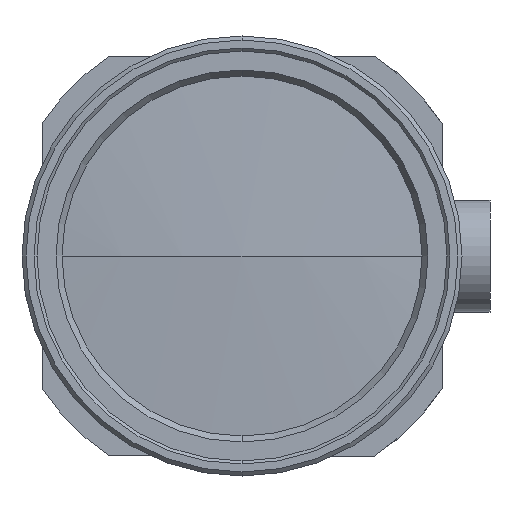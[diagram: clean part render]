
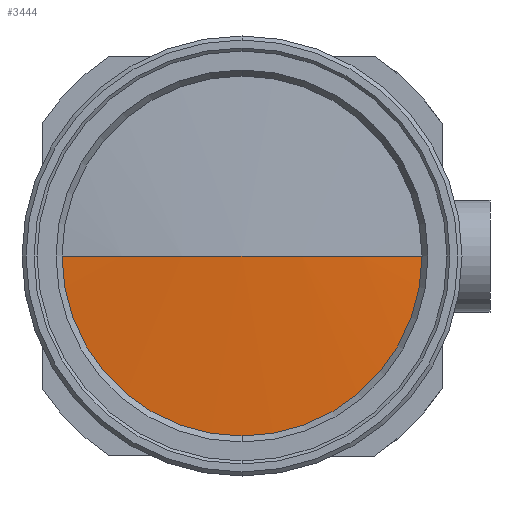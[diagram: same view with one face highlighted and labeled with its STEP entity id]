
A CAD part, left-side view. The second image highlights one B-rep face of the part: STEP entity #3444.
In plain terms, the highlighted spherical face has radius 232.5 mm.
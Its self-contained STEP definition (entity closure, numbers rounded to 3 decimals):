
#75 = AXIS2_PLACEMENT_3D ( 'NONE', #2205, #3190, #2234 ) ;
#82 = DIRECTION ( 'NONE',  ( 0., 1., 0. ) ) ;
#104 = ORIENTED_EDGE ( 'NONE', *, *, #3511, .T. ) ;
#147 = SPHERICAL_SURFACE ( 'NONE', #3337, 232.5 ) ;
#149 = ORIENTED_EDGE ( 'NONE', *, *, #3911, .T. ) ;
#153 = CARTESIAN_POINT ( 'NONE',  ( -231., 0., 0. ) ) ;
#308 = VERTEX_POINT ( 'NONE', #4064 ) ;
#334 = EDGE_CURVE ( 'NONE', #5181, #3171, #1631, .T. ) ;
#571 = CARTESIAN_POINT ( 'NONE',  ( 1.5, 0., 0. ) ) ;
#777 = AXIS2_PLACEMENT_3D ( 'NONE', #5504, #1378, #2156 ) ;
#1143 = AXIS2_PLACEMENT_3D ( 'NONE', #4146, #3300, #82 ) ;
#1378 = DIRECTION ( 'NONE',  ( -1., 0., 0. ) ) ;
#1390 = DIRECTION ( 'NONE',  ( 0., 0., 1. ) ) ;
#1415 = CIRCLE ( 'NONE', #4885, 22.5 ) ;
#1416 = DIRECTION ( 'NONE',  ( -1., 0., 0. ) ) ;
#1631 = CIRCLE ( 'NONE', #75, 232.5 ) ;
#2156 = DIRECTION ( 'NONE',  ( 0., 0., 1. ) ) ;
#2205 = CARTESIAN_POINT ( 'NONE',  ( 1.5, 0., 0. ) ) ;
#2234 = DIRECTION ( 'NONE',  ( 1., 0., 0. ) ) ;
#2245 = EDGE_CURVE ( 'NONE', #308, #5324, #3366, .T. ) ;
#2379 = CARTESIAN_POINT ( 'NONE',  ( -229.909, 0., 0. ) ) ;
#2615 = CARTESIAN_POINT ( 'NONE',  ( -229.909, -22.5, 0. ) ) ;
#2859 = DIRECTION ( 'NONE',  ( 0., 0., -1. ) ) ;
#3171 = VERTEX_POINT ( 'NONE', #153 ) ;
#3190 = DIRECTION ( 'NONE',  ( 0., 0., 1. ) ) ;
#3300 = DIRECTION ( 'NONE',  ( 0., 0., -1. ) ) ;
#3337 = AXIS2_PLACEMENT_3D ( 'NONE', #571, #2859, #4702 ) ;
#3366 = CIRCLE ( 'NONE', #777, 22.5 ) ;
#3444 = ADVANCED_FACE ( 'NONE', ( #5122 ), #147, .T. ) ;
#3511 = EDGE_CURVE ( 'NONE', #5181, #308, #1415, .T. ) ;
#3753 = CARTESIAN_POINT ( 'NONE',  ( -229.909, 22.5, 0. ) ) ;
#3911 = EDGE_CURVE ( 'NONE', #5324, #3171, #5080, .T. ) ;
#3995 = EDGE_LOOP ( 'NONE', ( #5772, #149, #4449, #104 ) ) ;
#4064 = CARTESIAN_POINT ( 'NONE',  ( -229.909, 0., -22.5 ) ) ;
#4146 = CARTESIAN_POINT ( 'NONE',  ( 1.5, 0., 0. ) ) ;
#4449 = ORIENTED_EDGE ( 'NONE', *, *, #334, .F. ) ;
#4702 = DIRECTION ( 'NONE',  ( 0., 1., 0. ) ) ;
#4885 = AXIS2_PLACEMENT_3D ( 'NONE', #2379, #1416, #1390 ) ;
#5080 = CIRCLE ( 'NONE', #1143, 232.5 ) ;
#5122 = FACE_OUTER_BOUND ( 'NONE', #3995, .T. ) ;
#5181 = VERTEX_POINT ( 'NONE', #3753 ) ;
#5324 = VERTEX_POINT ( 'NONE', #2615 ) ;
#5504 = CARTESIAN_POINT ( 'NONE',  ( -229.909, 0., 0. ) ) ;
#5772 = ORIENTED_EDGE ( 'NONE', *, *, #2245, .T. ) ;
